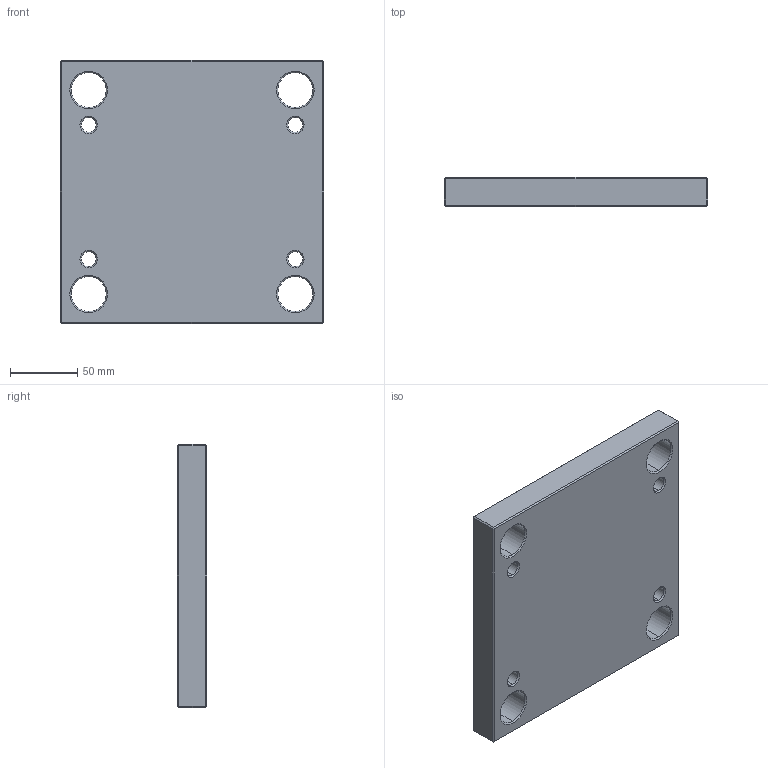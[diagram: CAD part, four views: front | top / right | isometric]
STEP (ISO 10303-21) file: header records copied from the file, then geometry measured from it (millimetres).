
FILE_DESCRIPTION (( 'STEP AP214' ), '1' );
FILE_NAME ('PBAS-EU-196x196x22.STEP', '2020-03-23T12:20:13', ( 'August' ), ( '' ), 'SwSTEP 2.0', 'SolidWorks 2018', '' );
FILE_SCHEMA (( 'AUTOMOTIVE_DESIGN' ));
Length unit declared in the file: millimetre
Products named in the file (1): PBAS-EU-196x196x22
Bounding box: 196 x 22 x 196 mm (x, y, z)
Volume: 780428.3 mm3; surface area: 98896.4 mm2
Topology: 1 solids, 1 shells, 86 faces, 184 edges, 104 vertices
Faces by surface type: cone 32, plane 30, cylinder 24
Entity records: 2346 total; most frequent: DIRECTION 438, CARTESIAN_POINT 375, ORIENTED_EDGE 368, EDGE_CURVE 184, AXIS2_PLACEMENT_3D 167, EDGE_LOOP 106, VECTOR 104, VERTEX_POINT 104
